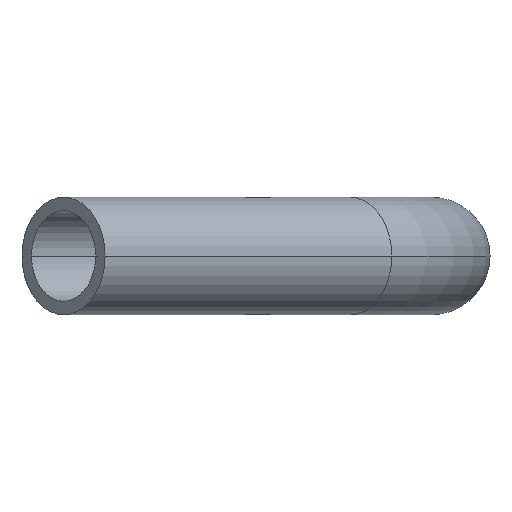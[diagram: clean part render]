
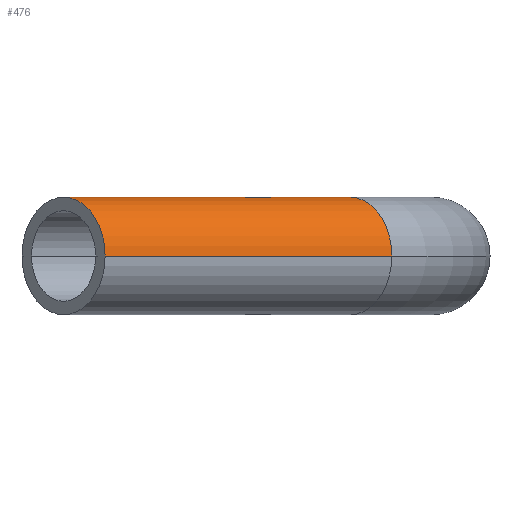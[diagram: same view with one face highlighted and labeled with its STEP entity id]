
A CAD part, left-side view. The second image highlights one B-rep face of the part: STEP entity #476.
In plain terms, the highlighted cylindrical face has radius 27 mm (diameter 54 mm), a partial arc.
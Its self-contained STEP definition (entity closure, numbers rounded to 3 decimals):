
#6 = AXIS2_PLACEMENT_3D ( 'NONE', #228, #221, #231 ) ;
#40 = DIRECTION ( 'NONE',  ( -0.707, 0.707, 0. ) ) ;
#44 = LINE ( 'NONE', #45, #142 ) ;
#45 = CARTESIAN_POINT ( 'NONE',  ( -323.289, 18.106, 0. ) ) ;
#48 = DIRECTION ( 'NONE',  ( 0., 0., -1. ) ) ;
#49 = DIRECTION ( 'NONE',  ( 0., 0., -1. ) ) ;
#50 = DIRECTION ( 'NONE',  ( 0.707, -0.707, 0. ) ) ;
#51 = CARTESIAN_POINT ( 'NONE',  ( -304.197, 37.197, 0. ) ) ;
#53 = DIRECTION ( 'NONE',  ( 0.707, -0.707, 0. ) ) ;
#71 = CARTESIAN_POINT ( 'NONE',  ( -435.908, 168.908, 0. ) ) ;
#72 = LINE ( 'NONE', #83, #160 ) ;
#83 = CARTESIAN_POINT ( 'NONE',  ( -285.106, 56.289, 0. ) ) ;
#95 = CARTESIAN_POINT ( 'NONE',  ( -416.816, 188., 0. ) ) ;
#96 = CARTESIAN_POINT ( 'NONE',  ( -455., 149.816, 0. ) ) ;
#100 = CARTESIAN_POINT ( 'NONE',  ( -285.106, 56.289, 0. ) ) ;
#101 = CARTESIAN_POINT ( 'NONE',  ( -323.289, 18.106, 0. ) ) ;
#139 = CIRCLE ( 'NONE', #140, 27. ) ;
#140 = AXIS2_PLACEMENT_3D ( 'NONE', #51, #50, #48 ) ;
#141 = CIRCLE ( 'NONE', #159, 27. ) ;
#142 = VECTOR ( 'NONE', #443, 1000. ) ;
#159 = AXIS2_PLACEMENT_3D ( 'NONE', #71, #53, #49 ) ;
#160 = VECTOR ( 'NONE', #40, 1000. ) ;
#221 = DIRECTION ( 'NONE',  ( -0.707, 0.707, 0. ) ) ;
#227 = FACE_OUTER_BOUND ( 'NONE', #339, .T. ) ;
#228 = CARTESIAN_POINT ( 'NONE',  ( -304.197, 37.197, 0. ) ) ;
#230 = CYLINDRICAL_SURFACE ( 'NONE', #6, 27. ) ;
#231 = DIRECTION ( 'NONE',  ( -0.707, -0.707, 0. ) ) ;
#333 = VERTEX_POINT ( 'NONE', #101 ) ;
#336 = VERTEX_POINT ( 'NONE', #100 ) ;
#339 = EDGE_LOOP ( 'NONE', ( #365, #366, #367, #368 ) ) ;
#341 = VERTEX_POINT ( 'NONE', #96 ) ;
#365 = ORIENTED_EDGE ( 'NONE', *, *, #459, .F. ) ;
#366 = ORIENTED_EDGE ( 'NONE', *, *, #458, .T. ) ;
#367 = ORIENTED_EDGE ( 'NONE', *, *, #457, .T. ) ;
#368 = ORIENTED_EDGE ( 'NONE', *, *, #463, .F. ) ;
#417 = VERTEX_POINT ( 'NONE', #95 ) ;
#443 = DIRECTION ( 'NONE',  ( -0.707, 0.707, 0. ) ) ;
#457 = EDGE_CURVE ( 'NONE', #417, #341, #141, .T. ) ;
#458 = EDGE_CURVE ( 'NONE', #336, #417, #72, .T. ) ;
#459 = EDGE_CURVE ( 'NONE', #336, #333, #139, .T. ) ;
#463 = EDGE_CURVE ( 'NONE', #333, #341, #44, .T. ) ;
#476 = ADVANCED_FACE ( 'NONE', ( #227 ), #230, .T. ) ;
